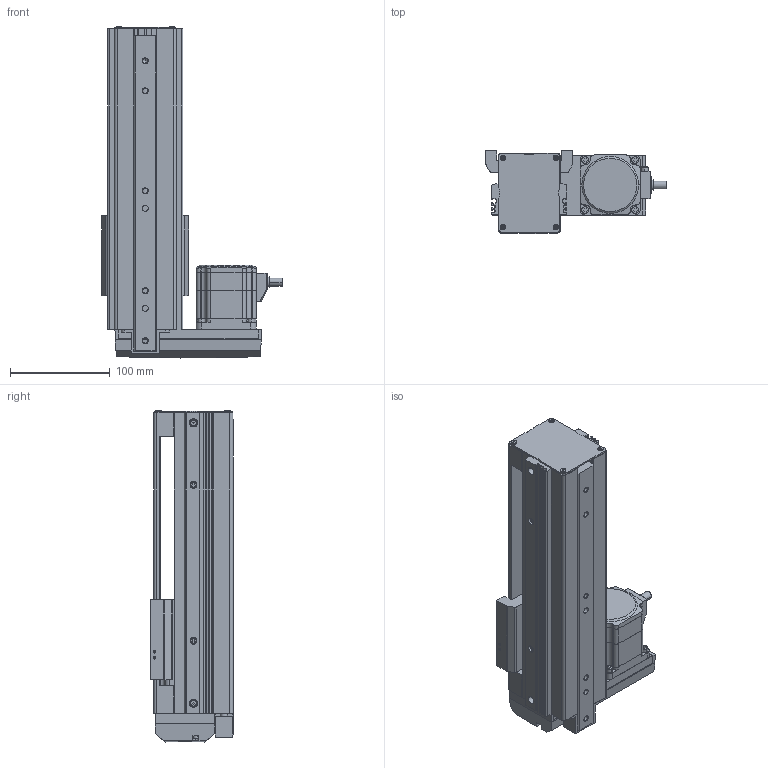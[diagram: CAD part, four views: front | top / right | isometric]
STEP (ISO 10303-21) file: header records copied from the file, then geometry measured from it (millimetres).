
FILE_DESCRIPTION (( 'STEP AP203' ), '1' );
FILE_NAME ('EASM6LXD015ARAK.step', '2013-10-10T22:39:32', ( 'om' ), ( 'Hewlett-Packard Company' ), 'SwSTEP 2.0', 'SolidWorks 2011', '' );
FILE_SCHEMA (( 'CONFIG_CONTROL_DESIGN' ));
Length unit declared in the file: millimetre
Products named in the file (4): EASM6LXD015ARAK_Table; EASM6LXD015ARAK_BASE; EASM6LXD015ARAK_Motor; EASM6LXD015ARAK
Assembly tree (3 placements, depth 2):
  EASM6LXD015ARAK
    EASM6LXD015ARAK_BASE
    EASM6LXD015ARAK_Table
    EASM6LXD015ARAK_Motor
Bounding box: 180.5 x 83 x 332.11 mm (x, y, z)
Volume: 1353269.4 mm3; surface area: 305242.7 mm2
Topology: 3 solids, 15 shells, 1120 faces, 2925 edges, 1907 vertices
Faces by surface type: plane 668, cylinder 376, cone 48, torus 24, bspline 4
Entity records: 35103 total; most frequent: CARTESIAN_POINT 6481, DIRECTION 5912, ORIENTED_EDGE 5814, EDGE_CURVE 2907, VECTOR 2012, LINE 2012, AXIS2_PLACEMENT_3D 1950, VERTEX_POINT 1907
